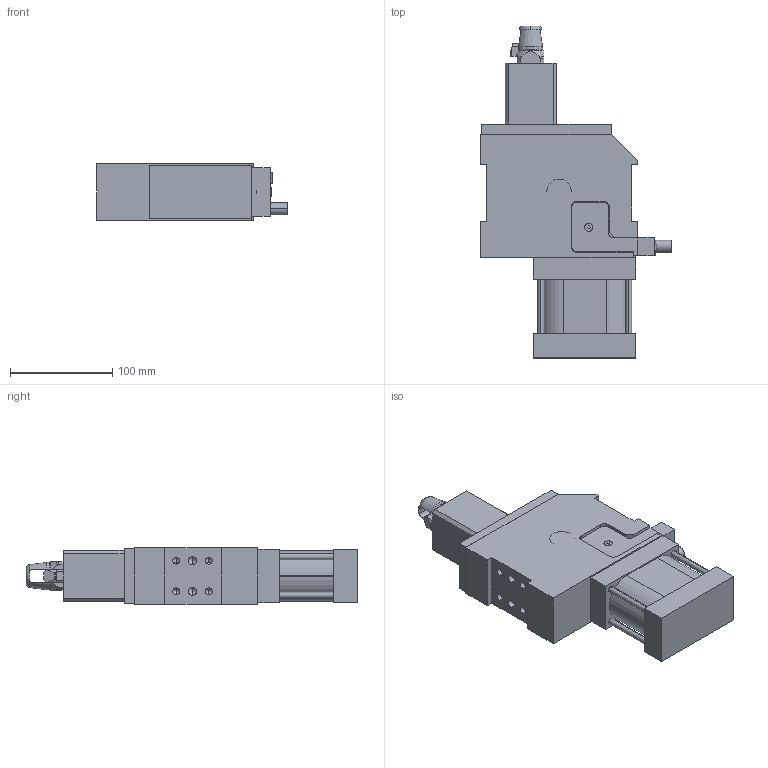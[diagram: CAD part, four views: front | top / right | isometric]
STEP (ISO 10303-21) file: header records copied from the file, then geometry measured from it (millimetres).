
FILE_DESCRIPTION (( 'STEP AP203' ), '1' );
FILE_NAME ('dca63.1i_4p_09858_xz.STEP', '2016-07-05T12:21:09', ( '' ), ( '' ), 'SwSTEP 2.0', 'SolidWorks 2015', '' );
FILE_SCHEMA (( 'CONFIG_CONTROL_DESIGN' ));
Length unit declared in the file: millimetre
Products named in the file (8): gruppo perno_tassello 9858_dca63; riparo_fc_dca63.1; blocchetto_p&f_0; dca63.1i_4p_09858_xz; gruppo montante dca63.1_r; gruppo cilindro dca63.1_r; gruppo gancio_9859_dca63; gruppo biella dca63_r
Assembly tree (7 placements, depth 2):
  dca63.1i_4p_09858_xz
    gruppo montante dca63.1_r
    gruppo cilindro dca63.1_r
    gruppo gancio_9859_dca63
    gruppo biella dca63_r
    gruppo perno_tassello 9858_dca63
    riparo_fc_dca63.1
    blocchetto_p&f_0
Bounding box: 187 x 325 x 55 mm (x, y, z)
Volume: 1425452.1 mm3; surface area: 222368.3 mm2
Topology: 7 solids, 7 shells, 404 faces, 1016 edges, 638 vertices
Faces by surface type: plane 207, cylinder 140, cone 48, torus 9
Entity records: 12923 total; most frequent: CARTESIAN_POINT 2331, DIRECTION 2081, ORIENTED_EDGE 1968, EDGE_CURVE 984, AXIS2_PLACEMENT_3D 726, VERTEX_POINT 638, LINE 629, VECTOR 629
